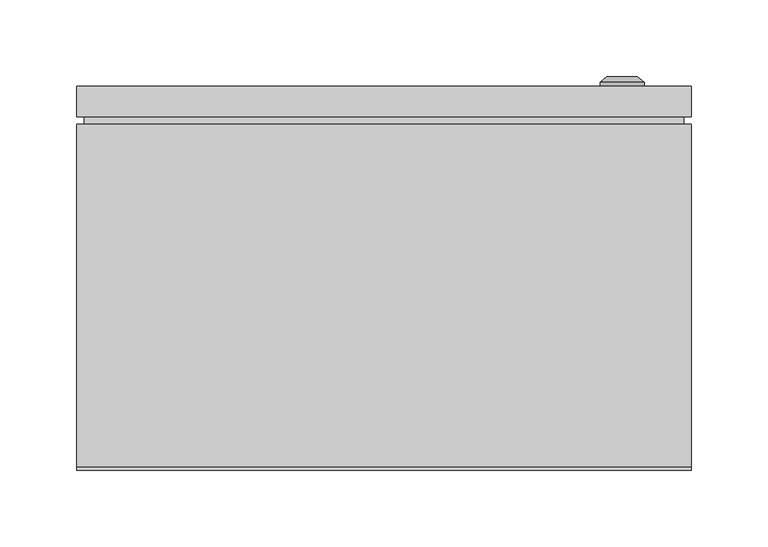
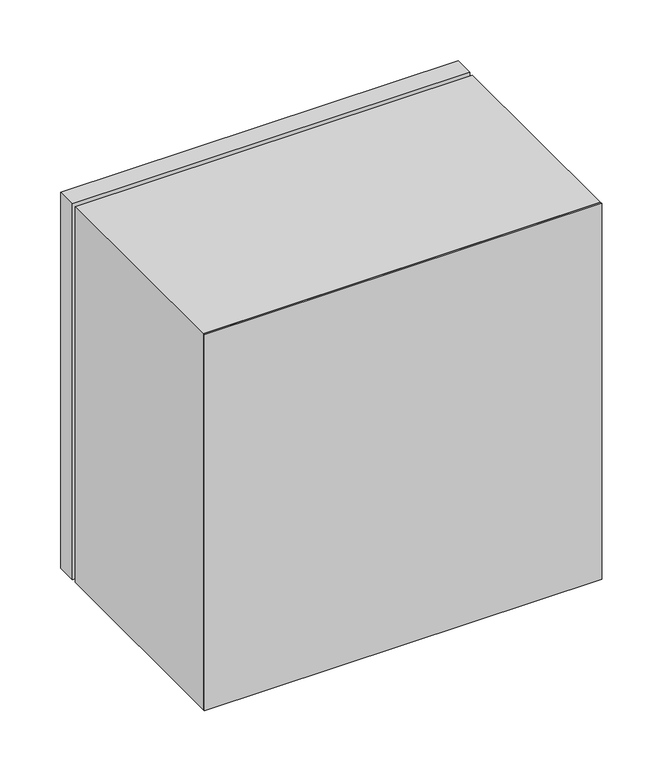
"""IFC4 building model written with IfcOpenShell, lengths in millimetres: proxy geometry, ЩМП_IP65 : ЩМП-4.4.2-0_400х400х250."""

from ifc_helpers import new_model, si_unit, frame, origin, origin_with_axes, place, context, project, spatial, polyline, circle_curve, outline, extrude, source, transform, mapped, element, save
from ifc_brep_helpers import plane_surface, cylinder_surface, revolved_surface, advanced_brep


def electrical_equipment_f1676e8e(model_context):
    return source(origin(), model_context, "Body", "SolidModel", [
        extrude(outline(polyline([(195.0, 225.0), (-195.0, 225.0), (-195.0, 230.0), (195.0, 230.0), (195.0, 225.0)])), frame((0.0, 0.0, 5.0), z_axis=(0.0, 0.0, 1.0), x_axis=(1.0, 0.0, 0.0)), (0.0, 0.0, 1.0), 390.0),
        extrude(outline(polyline([(200.0, 230.0), (-200.0, 230.0), (-200.0, 250.0), (200.0, 250.0), (200.0, 230.0)])), origin_with_axes(), (0.0, 0.0, 1.0), 400.0),
        advanced_brep(
        [(140.669873, 250.0, 200.0), (169.330127, 250.0, 200.0), (155.0, 250.0, 200.0), (140.669873, 252.366592, 200.0), (169.330127, 252.366592, 200.0), (145.0, 256.0, 200.0), (165.0, 256.0, 200.0), (153.1080471, 256.0, 200.0), (156.8919529, 256.0, 200.0), (153.1080471, 254.9822294, 200.0), (156.8919529, 254.9822294, 200.0), (155.0, 254.9822294, 200.0)],
        [
            (0, 1, circle_curve(frame((155.0, 250.0, 200.0), z_axis=(0.0, -1.0, 0.0), x_axis=(1.0, 0.0, 0.0)), 14.330127)),
            (1, 2),
            (2, 0),
            (1, 0, circle_curve(frame((155.0, 250.0, 200.0), z_axis=(0.0, -1.0, 0.0), x_axis=(1.0, 0.0, 0.0)), 14.330127)),
            (3, 4, circle_curve(frame((155.0, 252.366592, 200.0), z_axis=(0.0, -1.0, 0.0), x_axis=(1.0, 0.0, 0.0)), 14.330127)),
            (4, 1),
            (0, 3),
            (4, 3, circle_curve(frame((155.0, 252.366592, 200.0), z_axis=(0.0, -1.0, 0.0), x_axis=(1.0, 0.0, 0.0)), 14.330127)),
            (5, 6, circle_curve(frame((155.0, 256.0, 200.0), z_axis=(0.0, -1.0, 0.0), x_axis=(1.0, 0.0, 0.0)), 10.0)),
            (6, 4),
            (3, 5),
            (6, 5, circle_curve(frame((155.0, 256.0, 200.0), z_axis=(0.0, -1.0, 0.0), x_axis=(1.0, 0.0, 0.0)), 10.0)),
            (7, 8, circle_curve(frame((155.0, 256.0, 200.0), z_axis=(0.0, -1.0, 0.0), x_axis=(1.0, 0.0, 0.0)), 1.8919529)),
            (8, 6),
            (5, 7),
            (8, 7, circle_curve(frame((155.0, 256.0, 200.0), z_axis=(0.0, -1.0, 0.0), x_axis=(1.0, 0.0, 0.0)), 1.8919529)),
            (9, 10, circle_curve(frame((155.0, 254.9822294, 200.0), z_axis=(0.0, -1.0, 0.0), x_axis=(1.0, 0.0, 0.0)), 1.8919529)),
            (10, 8),
            (7, 9),
            (10, 9, circle_curve(frame((155.0, 254.9822294, 200.0), z_axis=(0.0, -1.0, 0.0), x_axis=(1.0, 0.0, 0.0)), 1.8919529)),
            (11, 10),
            (9, 11),
        ],
        [
            plane_surface(frame((155.0, 250.0, 200.0), z_axis=(0.0, -1.0, 0.0), x_axis=(1.0, 0.0, 0.0))),
            cylinder_surface(frame((155.0, 263.1348851, 200.0), z_axis=(0.0, 1.0, 0.0), x_axis=(1.0, 0.0, 0.0)), 14.330127),
            revolved_surface(polyline([(169.330127, 252.366592, 200.0), (165.0, 256.0, 200.0)]), (155.0, 263.1348851, 200.0), (0.0, 1.0, 0.0)),
            plane_surface(frame((155.0, 256.0, 200.0), z_axis=(0.0, 1.0, 0.0), x_axis=(1.0, 0.0, 0.0))),
            revolved_surface(polyline([(156.8919529, 256.0, 200.0), (156.8919529, 254.9822294, 200.0)]), (155.0, 263.1348851, 200.0), (0.0, 1.0, 0.0)),
            plane_surface(frame((155.0, 254.9822294, 200.0), z_axis=(0.0, 1.0, 0.0), x_axis=(1.0, 0.0, 0.0))),
        ],
        [
            (0, [[1, 2, 3]]),
            (0, [[4, -3, -2]]),
            (1, [[5, 6, -1, 7]]),
            (1, [[8, -7, -4, -6]]),
            (2, [[9, 10, -5, 11]]),
            (2, [[12, -11, -8, -10]]),
            (3, [[13, 14, -9, 15]]),
            (3, [[16, -15, -12, -14]]),
            (4, [[17, 18, -13, 19]]),
            (4, [[20, -19, -16, -18]]),
            (5, [[21, -17, 22]]),
            (5, [[-22, -20, -21]]),
        ],
    ),
        extrude(outline(polyline([(400.0, -200.0033905), (0.0, -200.0033905), (0.0, 199.9966095), (400.0, 199.9966095), (400.0, -200.0033905)]), holes=[polyline([(365.0, -165.0033905), (365.0, 164.9966095), (35.0, 164.9966095), (35.0, -165.0033905), (365.0, -165.0033905)])]), frame((0.0, 2.0, 0.0), z_axis=(0.0, 1.0, 0.0), x_axis=(0.0, 0.0, 1.0)), (0.0, 0.0, 1.0), 223.0),
        extrude(outline(polyline([(200.0, 0.0), (-200.0, 0.0), (-200.0, 2.0), (200.0, 2.0), (200.0, 0.0)])), origin_with_axes(), (0.0, 0.0, 1.0), 400.0),
    ])


if __name__ == "__main__":
    model = new_model("IFC4")
    model_context = context("Model", 3, world=origin())
    ifc_project = project(units=[si_unit("LENGTHUNIT", "METRE", prefix="MILLI")], contexts=[model_context])
    site = spatial("IfcSite", under=ifc_project)
    building = spatial("IfcBuilding", under=site)
    placement = place(None, origin())
    electrical_equipment_shape = electrical_equipment_f1676e8e(model_context)
    element("IfcBuildingElementProxy", 1, Name="ЩМП_IP65 : ЩМП-4.4.2-0_400х400х250", ObjectType="ЩМП_IP65 : ЩМП-4.4.2-0_400х400х250", at=placement, inside=building, context=model_context, shape_type="MappedRepresentation", body=[
        mapped(electrical_equipment_shape, transform((0.0, 0.0, 0.0), x_axis=(1.0, 0.0, 0.0), y_axis=(0.0, 1.0, 0.0), z_axis=(0.0, 0.0, 1.0))),
    ])
    save(model, "model.ifc")
